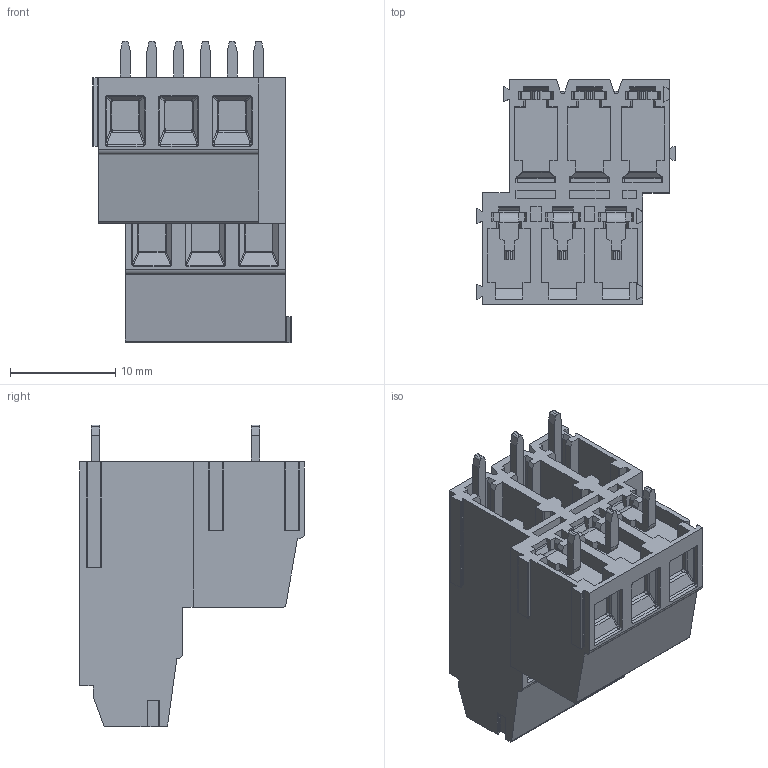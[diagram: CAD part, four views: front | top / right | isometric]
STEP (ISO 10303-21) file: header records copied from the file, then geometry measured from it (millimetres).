
FILE_DESCRIPTION((''),'2;1');
FILE_NAME('3','2019-05-09T',('zhenbing.lai'),(''),'CREO PARAMETRIC BY PTC INC, 2016260','CREO PARAMETRIC BY PTC INC, 2016260','');
FILE_SCHEMA(('CONFIG_CONTROL_DESIGN'));
Length unit declared in the file: millimetre
Products named in the file (1): 3
Bounding box: 18.92 x 21.4 x 28.7 mm (x, y, z)
Volume: 4231.6 mm3; surface area: 4701.2 mm2
Topology: 1 solids, 6 shells, 959 faces, 2584 edges, 1632 vertices
Faces by surface type: plane 578, cylinder 273, bspline 48, sphere 36, torus 24
Entity records: 33450 total; most frequent: CARTESIAN_POINT 9728, ORIENTED_EDGE 5096, DIRECTION 4737, EDGE_CURVE 2548, VECTOR 1701, LINE 1701, VERTEX_POINT 1632, AXIS2_PLACEMENT_3D 1518
